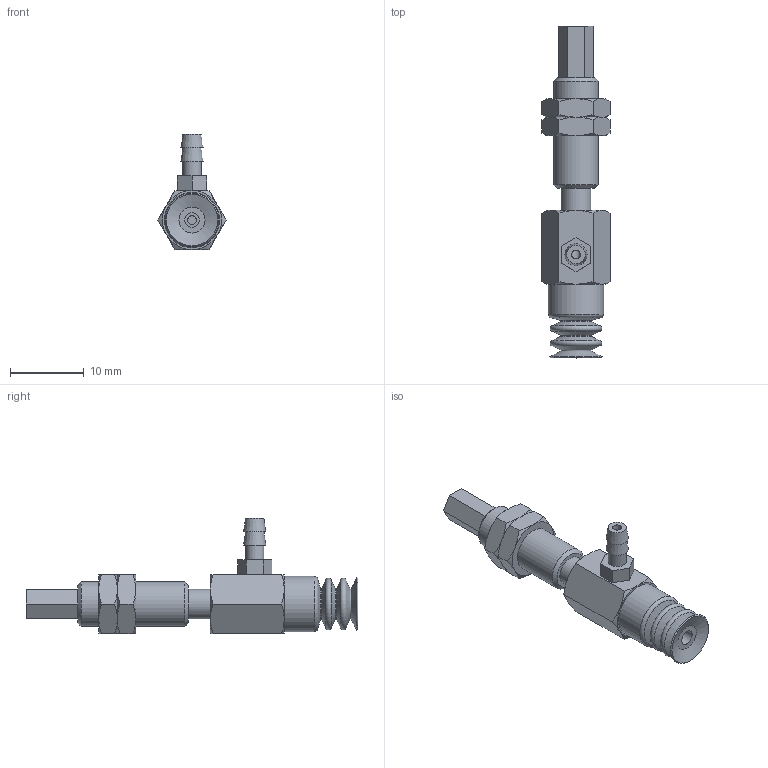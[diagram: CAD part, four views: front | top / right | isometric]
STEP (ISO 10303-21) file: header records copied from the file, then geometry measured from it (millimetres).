
FILE_DESCRIPTION(('STEP AP203'),'1');
FILE_NAME('-T.stp','2025-04-03T06:11:53',(' '),(' '),'Spatial InterOp 3D',' ',' ');
FILE_SCHEMA(('CONFIG_CONTROL_DESIGN'));
Length unit declared in the file: millimetre
Products named in the file (7): BNABPCYS-7-3-※-T; Connector_s-7-3; Nut napc_s-7-3; NAPCTS-7-3-FBODY; NAPCTS-7-3-MBODY; BPCG-7-※; T (2)
Assembly tree (7 placements, depth 2):
  BNABPCYS-7-3-※-T
    Connector_s-7-3
    Nut napc_s-7-3  x2
    NAPCTS-7-3-FBODY
    NAPCTS-7-3-MBODY
    BPCG-7-※
    T (2)
Bounding box: 9.24 x 45 x 15.6 mm (x, y, z)
Volume: 1592.7 mm3; surface area: 2514.6 mm2
Topology: 7 solids, 7 shells, 157 faces, 324 edges, 192 vertices
Faces by surface type: plane 69, cone 59, cylinder 18, torus 11
Full cylindrical faces by diameter (mm): 1.2 x2, 2 x1, 2.459 x2, 2.5 x1, 3 x2, 4 x4, 5.188 x2, 6 x3, 7.5 x1
Entity records: 3812 total; most frequent: CARTESIAN_POINT 848, DIRECTION 554, ORIENTED_EDGE 452, AXIS2_PLACEMENT_3D 240, EDGE_CURVE 226, EDGE_LOOP 204, FACE_OUTER_BOUND 162, VERTEX_POINT 162
